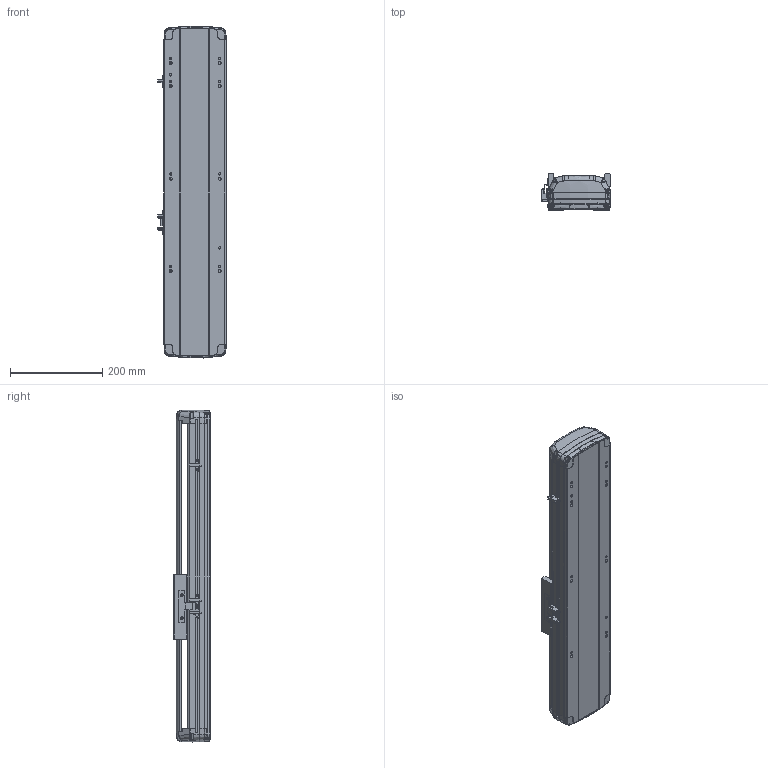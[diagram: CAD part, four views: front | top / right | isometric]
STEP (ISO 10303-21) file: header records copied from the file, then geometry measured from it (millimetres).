
FILE_DESCRIPTION (( 'STEP AP214' ), '1' );
FILE_NAME ('RTH14-XX-300-B-M20B-C4.STEP', '2025-10-24T08:27:46', ( 'Microsoft' ), ( 'Microsoft' ), 'SwSTEP 2.0', 'SolidWorks 2018', '' );
FILE_SCHEMA (( 'AUTOMOTIVE_DESIGN' ));
Length unit declared in the file: millimetre
Products named in the file (7): N_OMRON EE-SX672 传感器^RTH14-XX-XX-B-M20B-C4; N_RTH14-GY-001P^RTH14-XX-XX-B-M20B-C4; N_RTH14-B-011PB菁釱^RTH14-XX-XX-B-M20B-C4; RTH14-XX-300-B-M20B-C4; N_RTH14-R-004-SFSR16賑釱^RTH14-XX-XX-B-M20B-C4; N_RTH13-L-012感应片（外置）^RTH14-XX-XX-B-M20B-C4; N_RTH14-B-007B奻裔^RTH14-XX-XX-B-M20B-C4
Assembly tree (9 placements, depth 2):
  RTH14-XX-300-B-M20B-C4
    N_RTH14-B-011PB菁釱^RTH14-XX-XX-B-M20B-C4
    N_RTH14-B-007B奻裔^RTH14-XX-XX-B-M20B-C4
    N_RTH13-L-012感应片（外置）^RTH14-XX-XX-B-M20B-C4
    N_OMRON EE-SX672 传感器^RTH14-XX-XX-B-M20B-C4  x3
    N_RTH14-R-004-SFSR16賑釱^RTH14-XX-XX-B-M20B-C4
    N_RTH14-GY-001P^RTH14-XX-XX-B-M20B-C4  x2
Bounding box: 148.5 x 78.03 x 718.74 mm (x, y, z)
Volume: 3077574.2 mm3; surface area: 721918.4 mm2
Topology: 9 solids, 9 shells, 1900 faces, 5350 edges, 3482 vertices
Faces by surface type: plane 975, bspline 450, cylinder 411, cone 56, torus 8
Entity records: 45930 total; most frequent: CARTESIAN_POINT 20702, ORIENTED_EDGE 5716, DIRECTION 4161, EDGE_CURVE 2858, VERTEX_POINT 1868, LINE 1617, VECTOR 1617, AXIS2_PLACEMENT_3D 1272
